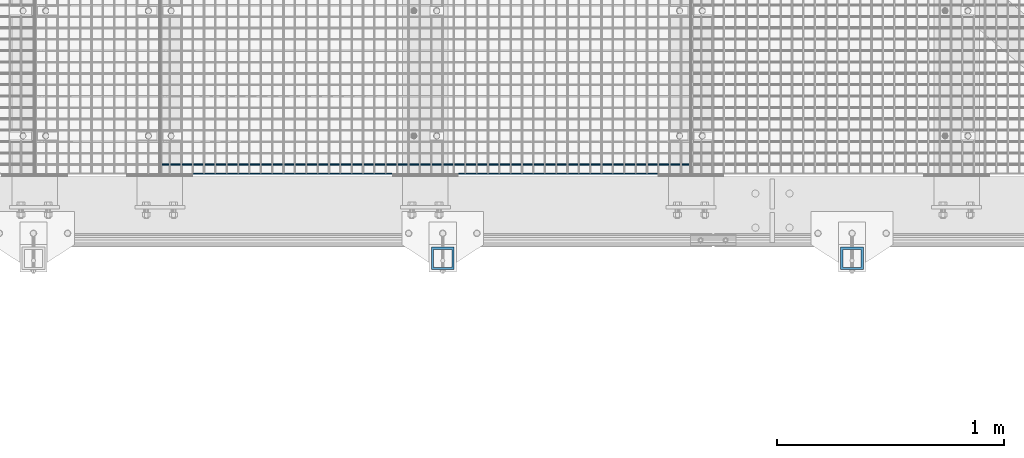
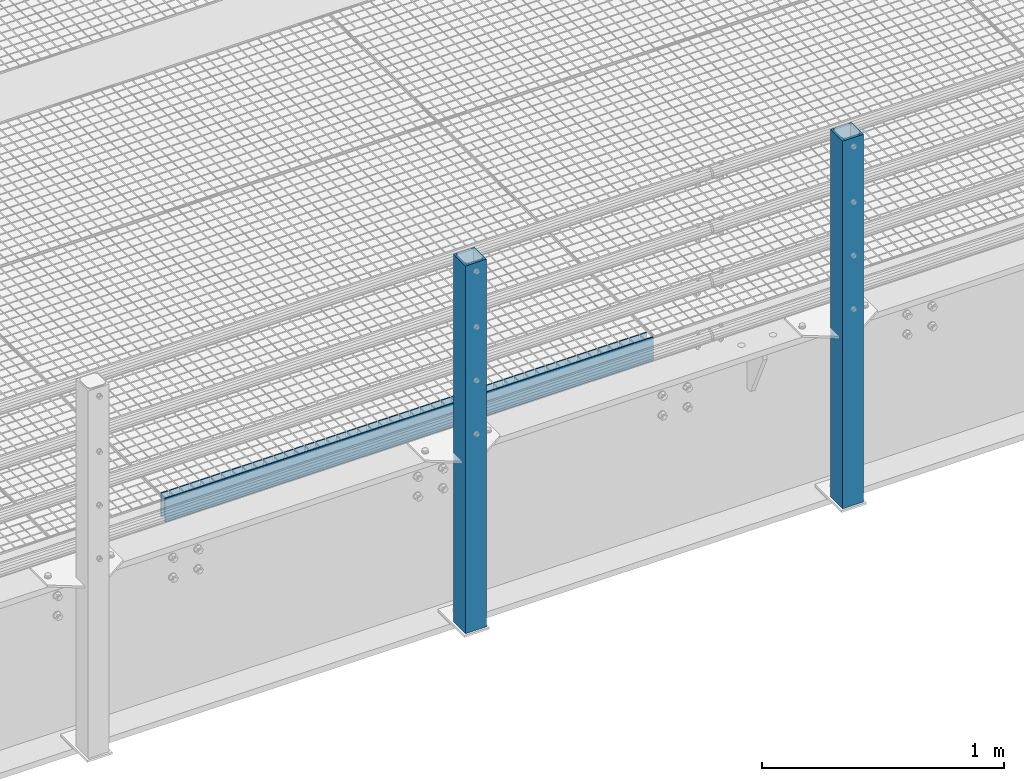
# One storey, part 170 of 1530: 4 beams.
"""IFC2X3 building model written with IfcOpenShell, lengths in millimetres."""

from ifc_helpers import new_model, si_unit, frame, origin_with_axes, place, context, subcontext, project, spatial, faceted_brep, material, type_object, element, save


model = new_model("IFC2X3")

# Units and contexts
model_context = context("Model", 3, precision=1e-05, world=origin_with_axes())
body_context = subcontext(model_context, "Body", "Model", "MODEL_VIEW")
ifc_project = project(units=[si_unit("LENGTHUNIT", "METRE", prefix="MILLI"), si_unit("AREAUNIT", "SQUARE_METRE"), si_unit("VOLUMEUNIT", "CUBIC_METRE"), si_unit("MASSUNIT", "GRAM", prefix="KILO"), si_unit("TIMEUNIT", "SECOND"), si_unit("PLANEANGLEUNIT", "RADIAN"), si_unit("SOLIDANGLEUNIT", "STERADIAN"), si_unit("THERMODYNAMICTEMPERATUREUNIT", "DEGREE_CELSIUS"), si_unit("LUMINOUSINTENSITYUNIT", "LUMEN")], contexts=[model_context])

# Site, building, storey
site_placement = place(None, origin_with_axes())
site = spatial("IfcSite", under=ifc_project, at=site_placement, Name="Brattvåg", CompositionType="ELEMENT")
building_placement = place(site_placement, origin_with_axes())
building = spatial("IfcBuilding", under=site, at=building_placement, Name="Undefined", CompositionType="ELEMENT")
storey_placement = place(building_placement, origin_with_axes())
storey = spatial("IfcBuildingStorey", under=building, at=storey_placement, Name="Undefined", CompositionType="ELEMENT", Elevation=0.0)

# Beams
ifc_material_1 = material(Name="STEEL/S355J2")
beam_type_1 = type_object("IfcBeamType", Name="120*5", PredefinedType="NOTDEFINED")
beam_1_placement = place(storey_placement, frame((5234.01317977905, 202.994873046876, -59.9998626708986), z_axis=(0.0, 0.0, 1.0), x_axis=(-1.0, 1.99999855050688e-09, 0.0)))
element("IfcBeam", 1, at=beam_1_placement, inside=storey, type_object=beam_type_1, material=ifc_material_1, Name="GRATING", context=body_context, shape_type="Brep", body=[
    faceted_brep([(2231.43418685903, -2.50000000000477, 60.000072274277), (2231.43418685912, -2.50000000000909, 35.0001373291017), (2231.43418685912, 2.50022888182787, 35.0001373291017), (2231.43418685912, 2.5, 60.0), (2236.43418685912, -2.50000000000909, 35.0001373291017), (2236.43418685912, 2.50022888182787, 35.0001373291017), (2236.43418685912, -2.50000000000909, 60.0001373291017), (2236.43418685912, 2.5, 60.0), (2186.48418685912, -2.50000000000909, 60.0001373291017), (2186.48418685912, 2.5, 60.0), (2186.48418685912, 2.50022888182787, 35.0001373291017), (2186.48418685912, -2.50000000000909, 35.0001373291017), (2181.48418685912, 2.50022888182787, 35.0001373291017), (2181.48418685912, -2.50000000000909, 35.0001373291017), (2181.48418685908, -2.50000000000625, 60.0000947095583), (2181.48418685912, 2.5, 60.0), (2136.53418685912, 2.5, 60.0), (2136.53418685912, -2.50000000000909, 60.0001373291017), (2136.53418685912, 2.50022888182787, 35.0001373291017), (2136.53418685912, -2.50000000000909, 35.0001373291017), (2131.53418685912, 2.50022888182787, 35.0001373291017), (2131.53418685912, -2.50000000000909, 35.0001373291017), (2131.5341868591, -2.50000000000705, 60.0001056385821), (2131.53418685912, 2.5, 60.0), (2086.58418685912, 2.5, 60.0), (2086.58418685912, -2.50000000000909, 60.0001373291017), (2086.58418685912, 2.50022888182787, 35.0001373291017), (2086.58418685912, -2.50000000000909, 35.0001373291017), (2081.58418685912, 2.50022888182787, 35.0001373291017), (2081.58418685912, -2.50000000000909, 35.0001373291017), (2081.58418685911, -2.50000000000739, 60.0001121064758), (2081.58418685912, 2.5, 60.0), (2036.63418685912, 2.5, 60.0), (2036.63418685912, -2.50000000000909, 60.0001373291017), (2036.63418685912, 2.50022888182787, 35.0001373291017), (2036.63418685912, -2.50000000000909, 35.0001373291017), (2031.63418685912, 2.50022888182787, 35.0001373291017), (2031.63418685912, -2.50000000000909, 35.0001373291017), (2031.63418685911, -2.50000000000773, 60.0001163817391), (2031.63418685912, 2.5, 60.0), (1986.68418685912, 2.5, 60.0), (1986.68418685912, -2.50000000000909, 60.0001373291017), (1986.68418685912, 2.50022888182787, 35.0001373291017), (1986.68418685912, -2.50000000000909, 35.0001373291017), (1981.68418685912, 2.50022888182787, 35.0001373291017), (1981.68418685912, -2.50000000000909, 35.0001373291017), (1981.68418685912, -2.50000000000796, 60.0001194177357), (1981.68418685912, 2.5, 60.0), (1936.73418685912, 2.5, 60.0), (1936.73418685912, -2.50000000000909, 60.0001373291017), (1936.73418685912, 2.50022888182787, 35.0001373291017), (1936.73418685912, -2.50000000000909, 35.0001373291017), (1931.73418685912, 2.50022888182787, 35.0001373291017), (1931.73418685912, -2.50000000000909, 35.0001373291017), (1931.73418685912, -2.50000000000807, 60.000121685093), (1931.73418685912, 2.5, 60.0), (1886.78418685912, 2.5, 60.0), (1886.78418685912, -2.50000000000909, 60.0001373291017), (1886.78418685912, 2.50022888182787, 35.0001373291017), (1886.78418685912, -2.50000000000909, 35.0001373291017), (1881.78418685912, 2.50022888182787, 35.0001373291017), (1881.78418685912, -2.50000000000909, 35.0001373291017), (1881.78418685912, -2.50000000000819, 60.0001234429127), (1881.78418685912, 2.5, 60.0), (1836.83418685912, 2.5, 60.0), (1836.83418685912, -2.50000000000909, 60.0001373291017), (1836.83418685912, 2.50022888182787, 35.0001373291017), (1836.83418685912, -2.50000000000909, 35.0001373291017), (1831.83418685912, 2.50022888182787, 35.0001373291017), (1831.83418685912, -2.50000000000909, 35.0001373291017), (1831.83418685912, -2.5000000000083, 60.0001248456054), (1831.83418685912, 2.5, 60.0), (1786.88418685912, 2.5, 60.0), (1786.88418685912, -2.50000000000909, 60.0001373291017), (1786.88418685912, 2.50022888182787, 35.0001373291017), (1786.88418685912, -2.50000000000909, 35.0001373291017), (1781.88418685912, 2.50022888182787, 35.0001373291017), (1781.88418685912, -2.50000000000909, 35.0001373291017), (1781.88418685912, -2.5000000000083, 60.0001259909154), (1781.88418685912, 2.5, 60.0), (1736.93418685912, 2.5, 60.0), (1736.93418685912, -2.50000000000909, 60.0001373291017), (1736.93418685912, 2.50022888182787, 35.0001373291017), (1736.93418685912, -2.50000000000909, 35.0001373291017), (1731.93418685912, 2.50022888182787, 35.0001373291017), (1731.93418685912, -2.50000000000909, 35.0001373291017), (1731.93418685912, -2.50000000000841, 60.0001269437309), (1731.93418685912, 2.5, 60.0), (1686.98418685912, 2.5, 60.0), (1686.98418685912, -2.50000000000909, 60.0001373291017), (1686.98418685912, 2.50022888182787, 35.0001373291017), (1686.98418685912, -2.50000000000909, 35.0001373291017), (1681.98418685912, 2.50022888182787, 35.0001373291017), (1681.98418685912, -2.50000000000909, 35.0001373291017), (1681.98418685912, -2.50000000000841, 60.0001277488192), (1681.98418685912, 2.5, 60.0), (1637.03418685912, 2.5, 60.0), (1637.03418685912, -2.50000000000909, 60.0001373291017), (1637.03418685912, 2.50022888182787, 35.0001373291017), (1637.03418685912, -2.50000000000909, 35.0001373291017), (1632.03418685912, 2.50022888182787, 35.0001373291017), (1632.03418685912, -2.50000000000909, 35.0001373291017), (1632.03418685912, -2.50000000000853, 60.0001284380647), (1632.03418685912, 2.5, 60.0), (1587.08418685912, 2.5, 60.0), (1587.08418685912, -2.50000000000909, 60.0001373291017), (1587.08418685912, 2.50022888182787, 35.0001373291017), (1587.08418685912, -2.50000000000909, 35.0001373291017), (1582.08418685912, 2.50022888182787, 35.0001373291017), (1582.08418685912, -2.50000000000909, 35.0001373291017), (1582.08418685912, -2.50000000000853, 60.000129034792), (1582.08418685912, 2.5, 60.0), (1537.13418685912, 2.5, 60.0), (1537.13418685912, -2.50000000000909, 60.0001373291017), (1537.13418685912, 2.50022888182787, 35.0001373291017), (1537.13418685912, -2.50000000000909, 35.0001373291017), (1532.13418685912, 2.50022888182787, 35.0001373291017), (1532.13418685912, -2.50000000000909, 35.0001373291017), (1532.13418685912, -2.50000000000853, 60.0001295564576), (1532.13418685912, 2.5, 60.0), (1487.18418685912, 2.5, 60.0), (1487.18418685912, -2.50000000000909, 60.0001373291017), (1487.18418685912, 2.50022888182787, 35.0001373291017), (1487.18418685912, -2.50000000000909, 35.0001373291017), (1482.18418685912, 2.50022888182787, 35.0001373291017), (1482.18418685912, -2.50000000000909, 35.0001373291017), (1482.18418685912, -2.50000000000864, 60.0001300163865), (1482.18418685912, 2.5, 60.0), (1437.23418685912, 2.5, 60.0), (1437.23418685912, -2.50000000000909, 60.0001373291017), (1437.23418685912, 2.50022888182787, 35.0001373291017), (1437.23418685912, -2.50000000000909, 35.0001373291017), (1432.23418685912, 2.50022888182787, 35.0001373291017), (1432.23418685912, -2.50000000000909, 35.0001373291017), (1432.23418685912, -2.50000000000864, 60.0001304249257), (1432.23418685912, 2.5, 60.0), (1387.28418685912, 2.5, 60.0), (1387.28418685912, -2.50000000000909, 60.0001373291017), (1387.28418685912, 2.50022888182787, 35.0001373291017), (1387.28418685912, -2.50000000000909, 35.0001373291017), (1382.28418685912, 2.50022888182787, 35.0001373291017), (1382.28418685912, -2.50000000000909, 35.0001373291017), (1382.28418685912, -2.50000000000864, 60.0001307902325), (1382.28418685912, 2.5, 60.0), (1337.33418685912, 2.5, 60.0), (1337.33418685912, -2.50000000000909, 60.0001373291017), (1337.33418685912, 2.50022888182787, 35.0001373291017), (1337.33418685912, -2.50000000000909, 35.0001373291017), (1332.33418685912, 2.50022888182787, 35.0001373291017), (1332.33418685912, -2.50000000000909, 35.0001373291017), (1332.33418685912, -2.50000000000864, 60.0001311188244), (1332.33418685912, 2.5, 60.0), (1287.38418685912, 2.5, 60.0), (1287.38418685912, -2.50000000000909, 60.0001373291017), (1287.38418685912, 2.50022888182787, 35.0001373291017), (1287.38418685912, -2.50000000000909, 35.0001373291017), (1282.38418685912, 2.50022888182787, 35.0001373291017), (1282.38418685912, -2.50000000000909, 35.0001373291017), (1282.38418685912, -2.50000000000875, 60.0001314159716), (1282.38418685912, 2.5, 60.0), (1237.43418685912, 2.5, 60.0), (1237.43418685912, -2.50000000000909, 60.0001373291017), (1237.43418685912, 2.50022888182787, 35.0001373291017), (1237.43418685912, -2.50000000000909, 35.0001373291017), (1232.43418685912, 2.50022888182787, 35.0001373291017), (1232.43418685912, -2.50000000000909, 35.0001373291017), (1232.43418685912, -2.50000000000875, 60.0001316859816), (1232.43418685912, 2.5, 60.0), (1187.48418685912, 2.5, 60.0), (1187.48418685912, -2.50000000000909, 60.0001373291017), (1187.48418685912, 2.50022888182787, 35.0001373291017), (1187.48418685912, -2.50000000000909, 35.0001373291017), (1182.48418685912, 2.50022888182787, 35.0001373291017), (1182.48418685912, -2.50000000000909, 35.0001373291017), (1182.48418685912, -2.50000000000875, 60.0001319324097), (1182.48418685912, 2.5, 60.0), (1137.53418685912, 2.5, 60.0), (1137.53418685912, -2.50000000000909, 60.0001373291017), (1137.53418685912, 2.50022888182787, 35.0001373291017), (1137.53418685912, -2.50000000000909, 35.0001373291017), (1132.53418685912, 2.50022888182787, 35.0001373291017), (1132.53418685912, -2.50000000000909, 35.0001373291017), (1132.53418685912, -2.50000000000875, 60.0001321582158), (1132.53418685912, 2.5, 60.0), (1087.58418685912, 2.5, 60.0), (1087.58418685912, -2.50000000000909, 60.0001373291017), (1087.58418685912, 2.50022888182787, 35.0001373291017), (1087.58418685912, -2.50000000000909, 35.0001373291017), (1082.58418685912, 2.50022888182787, 35.0001373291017), (1082.58418685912, -2.50000000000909, 35.0001373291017), (1082.58418685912, -2.50000000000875, 60.0001323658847), (1082.58418685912, 2.5, 60.0), (1037.63418685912, 2.5, 60.0), (1037.63418685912, -2.50000000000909, 60.0001373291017), (1037.63418685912, 2.50022888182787, 35.0001373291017), (1037.63418685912, -2.50000000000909, 35.0001373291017), (1032.63418685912, 2.50022888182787, 35.0001373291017), (1032.63418685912, -2.50000000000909, 35.0001373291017), (1032.63418685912, -2.50000000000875, 60.0001325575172), (1032.63418685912, 2.5, 60.0), (987.684186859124, 2.5, 60.0), (987.684186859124, -2.50000000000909, 60.0001373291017), (987.684186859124, 2.50022888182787, 35.0001373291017), (987.684186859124, -2.50000000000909, 35.0001373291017), (982.684186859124, 2.50022888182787, 35.0001373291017), (982.684186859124, -2.50000000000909, 35.0001373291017), (982.684186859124, -2.50000000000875, 60.0001327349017), (982.684186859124, 2.5, 60.0), (937.734186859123, 2.5, 60.0), (937.734186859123, -2.50000000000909, 60.0001373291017), (937.734186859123, 2.50022888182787, 35.0001373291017), (937.734186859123, -2.50000000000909, 35.0001373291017), (932.734186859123, 2.50022888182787, 35.0001373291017), (932.734186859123, -2.50000000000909, 35.0001373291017), (932.734186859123, -2.50000000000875, 60.0001328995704), (932.734186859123, 2.5, 60.0), (887.784186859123, 2.5, 60.0), (887.784186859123, -2.50000000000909, 60.0001373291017), (887.784186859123, 2.50022888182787, 35.0001373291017), (887.784186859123, -2.50000000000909, 35.0001373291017), (882.784186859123, 2.50022888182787, 35.0001373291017), (882.784186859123, -2.50000000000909, 35.0001373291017), (882.784186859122, -2.50000000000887, 60.0001330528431), (882.784186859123, 2.5, 60.0), (837.834186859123, 2.5, 60.0), (837.834186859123, -2.50000000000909, 60.0001373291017), (837.834186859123, 2.50022888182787, 35.0001373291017), (837.834186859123, -2.50000000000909, 35.0001373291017), (832.834186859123, 2.50022888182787, 35.0001373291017), (832.834186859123, -2.50000000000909, 35.0001373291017), (832.834186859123, -2.50000000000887, 60.0001331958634), (832.834186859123, 2.5, 60.0), (787.884186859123, 2.5, 60.0), (787.884186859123, -2.50000000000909, 60.0001373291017), (787.884186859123, 2.50022888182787, 35.0001373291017), (787.884186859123, -2.50000000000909, 35.0001373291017), (782.884186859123, 2.50022888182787, 35.0001373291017), (782.884186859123, -2.50000000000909, 35.0001373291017), (782.884186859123, -2.50000000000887, 60.0001333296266), (782.884186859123, 2.5, 60.0), (737.934186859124, 2.5, 60.0), (737.934186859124, -2.50000000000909, 60.0001373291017), (737.934186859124, 2.50022888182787, 35.0001373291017), (737.934186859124, -2.50000000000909, 35.0001373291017), (732.934186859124, 2.50022888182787, 35.0001373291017), (732.934186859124, -2.50000000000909, 35.0001373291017), (732.934186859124, -2.50000000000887, 60.0001334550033), (732.934186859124, 2.5, 60.0), (687.984186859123, 2.5, 60.0), (687.984186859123, -2.50000000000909, 60.0001373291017), (687.984186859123, 2.50022888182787, 35.0001373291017), (687.984186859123, -2.50000000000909, 35.0001373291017), (682.984186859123, 2.50022888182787, 35.0001373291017), (682.984186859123, -2.50000000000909, 35.0001373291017), (682.984186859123, -2.50000000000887, 60.0001335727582), (682.984186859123, 2.5, 60.0), (638.034186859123, 2.5, 60.0), (638.034186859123, -2.50000000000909, 60.0001373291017), (638.034186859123, 2.50022888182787, 35.0001373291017), (638.034186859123, -2.50000000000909, 35.0001373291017), (633.034186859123, 2.50022888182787, 35.0001373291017), (633.034186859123, -2.50000000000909, 35.0001373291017), (633.034186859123, -2.50000000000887, 60.0001336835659), (633.034186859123, 2.5, 60.0), (588.084186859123, 2.5, 60.0), (588.084186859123, -2.50000000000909, 60.0001373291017), (588.084186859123, 2.50022888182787, 35.0001373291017), (588.084186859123, -2.50000000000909, 35.0001373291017), (583.084186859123, 2.50022888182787, 35.0001373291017), (583.084186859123, -2.50000000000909, 35.0001373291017), (583.084186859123, -2.50000000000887, 60.0001337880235), (583.084186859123, 2.5, 60.0), (538.134186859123, 2.5, 60.0), (538.134186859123, -2.50000000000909, 60.0001373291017), (538.134186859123, 2.50022888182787, 35.0001373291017), (538.134186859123, -2.50000000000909, 35.0001373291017), (533.134186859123, 2.50022888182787, 35.0001373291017), (533.134186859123, -2.50000000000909, 35.0001373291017), (533.134186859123, -2.50000000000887, 60.0001338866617), (533.134186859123, 2.5, 60.0), (488.184186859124, 2.5, 60.0), (488.184186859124, -2.50000000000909, 60.0001373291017), (488.184186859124, 2.50022888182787, 35.0001373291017), (488.184186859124, -2.50000000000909, 35.0001373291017), (483.184186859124, 2.50022888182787, 35.0001373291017), (483.184186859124, -2.50000000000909, 35.0001373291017), (483.184186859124, -2.50000000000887, 60.0001339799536), (483.184186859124, 2.5, 60.0), (438.234186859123, 2.5, 60.0), (438.234186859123, -2.50000000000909, 60.0001373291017), (438.234186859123, 2.50022888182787, 35.0001373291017), (438.234186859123, -2.50000000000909, 35.0001373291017), (433.234186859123, 2.50022888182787, 35.0001373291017), (433.234186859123, -2.50000000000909, 35.0001373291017), (433.234186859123, -2.50000000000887, 60.0001340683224), (433.234186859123, 2.5, 60.0), (388.284186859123, 2.5, 60.0), (388.284186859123, -2.50000000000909, 60.0001373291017), (388.284186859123, 2.50022888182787, 35.0001373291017), (388.284186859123, -2.50000000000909, 35.0001373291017), (383.284186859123, 2.50022888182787, 35.0001373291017), (383.284186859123, -2.50000000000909, 35.0001373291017), (383.284186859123, -2.50000000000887, 60.0001341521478), (383.284186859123, 2.5, 60.0), (338.334186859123, 2.5, 60.0), (338.334186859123, -2.50000000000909, 60.0001373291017), (338.334186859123, 2.50022888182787, 35.0001373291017), (338.334186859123, -2.50000000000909, 35.0001373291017), (333.334186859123, 2.50022888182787, 35.0001373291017), (333.334186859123, -2.50000000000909, 35.0001373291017), (333.334186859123, -2.50000000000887, 60.0001342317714), (333.334186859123, 2.5, 60.0), (288.384186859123, 2.5, 60.0), (288.384186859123, -2.50000000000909, 60.0001373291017), (288.384186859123, 2.50022888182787, 35.0001373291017), (288.384186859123, -2.50000000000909, 35.0001373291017), (283.384186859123, 2.50022888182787, 35.0001373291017), (283.384186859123, -2.50000000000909, 35.0001373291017), (283.384186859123, -2.50000000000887, 60.0001343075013), (283.384186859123, 2.5, 60.0), (238.434186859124, 2.5, 60.0), (238.434186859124, -2.50000000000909, 60.0001373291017), (238.434186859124, 2.50022888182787, 35.0001373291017), (238.434186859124, -2.50000000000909, 35.0001373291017), (233.434186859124, 2.50022888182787, 35.0001373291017), (233.434186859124, -2.50000000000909, 35.0001373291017), (233.434186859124, -2.50000000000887, 60.0001343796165), (233.434186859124, 2.5, 60.0), (188.484186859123, 2.5, 60.0), (188.484186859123, -2.50000000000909, 60.0001373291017), (188.484186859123, 2.50022888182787, 35.0001373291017), (188.484186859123, -2.50000000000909, 35.0001373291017), (183.484186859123, 2.50022888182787, 35.0001373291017), (183.484186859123, -2.50000000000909, 35.0001373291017), (183.484186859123, -2.50000000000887, 60.0001344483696), (183.484186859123, 2.5, 60.0), (138.534186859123, 2.5, 60.0), (138.534186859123, -2.50000000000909, 60.0001373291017), (138.534186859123, 2.50022888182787, 35.0001373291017), (138.534186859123, -2.50000000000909, 35.0001373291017), (133.534186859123, 2.50022888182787, 35.0001373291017), (133.534186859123, -2.50000000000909, 35.0001373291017), (133.534186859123, -2.50000000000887, 60.0001345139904), (133.534186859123, 2.5, 60.0), (88.5841868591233, 2.5, 60.0), (88.5841868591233, -2.50000000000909, 60.0001373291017), (88.5841868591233, 2.50022888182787, 35.0001373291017), (88.5841868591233, -2.50000000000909, 35.0001373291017), (83.5841868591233, 2.50022888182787, 35.0001373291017), (83.5841868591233, -2.50000000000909, 35.0001373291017), (83.5841868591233, -2.50000000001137, 60.0001345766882), (83.5841868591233, 2.5, 60.0), (38.6341868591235, 2.5, 60.0), (38.6341868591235, -2.5000000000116, 60.0001373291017), (38.6341868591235, 2.49999999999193, 35.0001373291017), (38.6341868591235, -2.5000000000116, 35.0001373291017), (33.6341868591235, 2.49999999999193, 35.0001373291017), (33.6341868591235, -2.5000000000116, 35.0001373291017), (33.6341868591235, -2.5, 60.0), (33.6341868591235, 2.5, 60.0), (0.0, 2.5, 60.0), (0.0, -2.5, 60.0), (0.0, -2.5, -60.0), (0.0, 2.5, -60.0), (2319.99865722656, 2.5, -60.0), (2319.99865722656, -2.5, -60.0), (2319.99865722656, -2.5, 60.0), (2319.99865722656, 2.5, 60.0), (2286.37250839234, 2.5, 60.0), (2286.37250839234, -2.50000000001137, 60.0001373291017), (2286.37250839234, 2.49999999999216, 35.0001373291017), (2286.37250839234, -2.50000000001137, 35.0001373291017), (2281.37250839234, 2.49999999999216, 35.0001373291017), (2281.37250839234, -2.50000000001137, 35.0001373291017), (2281.37250839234, -2.5, 60.0), (2281.37250839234, 2.5, 60.0)], [[[0, 1, 2, 3]], [[4, 5, 2, 1]], [[6, 7, 5, 4]], [[8, 9, 10, 11]], [[11, 10, 12, 13]], [[14, 13, 12, 15]], [[16, 17, 14, 15]], [[17, 16, 18, 19]], [[19, 18, 20, 21]], [[22, 21, 20, 23]], [[24, 25, 22, 23]], [[25, 24, 26, 27]], [[27, 26, 28, 29]], [[30, 29, 28, 31]], [[32, 33, 30, 31]], [[33, 32, 34, 35]], [[35, 34, 36, 37]], [[38, 37, 36, 39]], [[40, 41, 38, 39]], [[41, 40, 42, 43]], [[43, 42, 44, 45]], [[46, 45, 44, 47]], [[48, 49, 46, 47]], [[49, 48, 50, 51]], [[51, 50, 52, 53]], [[54, 53, 52, 55]], [[56, 57, 54, 55]], [[57, 56, 58, 59]], [[59, 58, 60, 61]], [[62, 61, 60, 63]], [[64, 65, 62, 63]], [[65, 64, 66, 67]], [[67, 66, 68, 69]], [[70, 69, 68, 71]], [[72, 73, 70, 71]], [[73, 72, 74, 75]], [[75, 74, 76, 77]], [[78, 77, 76, 79]], [[80, 81, 78, 79]], [[81, 80, 82, 83]], [[83, 82, 84, 85]], [[86, 85, 84, 87]], [[88, 89, 86, 87]], [[89, 88, 90, 91]], [[91, 90, 92, 93]], [[94, 93, 92, 95]], [[96, 97, 94, 95]], [[97, 96, 98, 99]], [[99, 98, 100, 101]], [[102, 101, 100, 103]], [[104, 105, 102, 103]], [[105, 104, 106, 107]], [[107, 106, 108, 109]], [[110, 109, 108, 111]], [[112, 113, 110, 111]], [[113, 112, 114, 115]], [[115, 114, 116, 117]], [[118, 117, 116, 119]], [[120, 121, 118, 119]], [[121, 120, 122, 123]], [[123, 122, 124, 125]], [[126, 125, 124, 127]], [[128, 129, 126, 127]], [[129, 128, 130, 131]], [[131, 130, 132, 133]], [[134, 133, 132, 135]], [[136, 137, 134, 135]], [[137, 136, 138, 139]], [[139, 138, 140, 141]], [[142, 141, 140, 143]], [[144, 145, 142, 143]], [[145, 144, 146, 147]], [[147, 146, 148, 149]], [[150, 149, 148, 151]], [[152, 153, 150, 151]], [[153, 152, 154, 155]], [[155, 154, 156, 157]], [[158, 157, 156, 159]], [[160, 161, 158, 159]], [[161, 160, 162, 163]], [[163, 162, 164, 165]], [[166, 165, 164, 167]], [[168, 169, 166, 167]], [[169, 168, 170, 171]], [[171, 170, 172, 173]], [[174, 173, 172, 175]], [[176, 177, 174, 175]], [[177, 176, 178, 179]], [[179, 178, 180, 181]], [[182, 181, 180, 183]], [[184, 185, 182, 183]], [[185, 184, 186, 187]], [[187, 186, 188, 189]], [[190, 189, 188, 191]], [[192, 193, 190, 191]], [[193, 192, 194, 195]], [[195, 194, 196, 197]], [[198, 197, 196, 199]], [[200, 201, 198, 199]], [[201, 200, 202, 203]], [[203, 202, 204, 205]], [[206, 205, 204, 207]], [[208, 209, 206, 207]], [[209, 208, 210, 211]], [[211, 210, 212, 213]], [[214, 213, 212, 215]], [[216, 217, 214, 215]], [[217, 216, 218, 219]], [[219, 218, 220, 221]], [[222, 221, 220, 223]], [[224, 225, 222, 223]], [[225, 224, 226, 227]], [[227, 226, 228, 229]], [[230, 229, 228, 231]], [[232, 233, 230, 231]], [[233, 232, 234, 235]], [[235, 234, 236, 237]], [[238, 237, 236, 239]], [[240, 241, 238, 239]], [[241, 240, 242, 243]], [[243, 242, 244, 245]], [[246, 245, 244, 247]], [[248, 249, 246, 247]], [[249, 248, 250, 251]], [[251, 250, 252, 253]], [[254, 253, 252, 255]], [[256, 257, 254, 255]], [[257, 256, 258, 259]], [[259, 258, 260, 261]], [[262, 261, 260, 263]], [[264, 265, 262, 263]], [[265, 264, 266, 267]], [[267, 266, 268, 269]], [[270, 269, 268, 271]], [[272, 273, 270, 271]], [[273, 272, 274, 275]], [[275, 274, 276, 277]], [[278, 277, 276, 279]], [[280, 281, 278, 279]], [[281, 280, 282, 283]], [[283, 282, 284, 285]], [[286, 285, 284, 287]], [[288, 289, 286, 287]], [[289, 288, 290, 291]], [[291, 290, 292, 293]], [[294, 293, 292, 295]], [[296, 297, 294, 295]], [[297, 296, 298, 299]], [[299, 298, 300, 301]], [[302, 301, 300, 303]], [[304, 305, 302, 303]], [[305, 304, 306, 307]], [[307, 306, 308, 309]], [[310, 309, 308, 311]], [[312, 313, 310, 311]], [[313, 312, 314, 315]], [[315, 314, 316, 317]], [[318, 317, 316, 319]], [[320, 321, 318, 319]], [[321, 320, 322, 323]], [[323, 322, 324, 325]], [[326, 325, 324, 327]], [[328, 329, 326, 327]], [[329, 328, 330, 331]], [[331, 330, 332, 333]], [[334, 333, 332, 335]], [[336, 337, 334, 335]], [[337, 336, 338, 339]], [[339, 338, 340, 341]], [[342, 341, 340, 343]], [[344, 345, 342, 343]], [[345, 344, 346, 347]], [[347, 346, 348, 349]], [[350, 349, 348, 351]], [[352, 353, 350, 351]], [[353, 352, 354, 355]], [[355, 354, 356, 357]], [[358, 357, 356, 359]], [[360, 361, 358, 359]], [[362, 361, 360, 363]], [[362, 363, 364, 365]], [[366, 365, 364, 367]], [[366, 367, 368, 369]], [[369, 368, 370, 371]], [[371, 370, 372, 373]], [[374, 373, 372, 375]], [[1, 0, 8, 11, 13, 14, 17, 19, 21, 22, 25, 27, 29, 30, 33, 35, 37, 38, 41, 43, 45, 46, 49, 51, 53, 54, 57, 59, 61, 62, 65, 67, 69, 70, 73, 75, 77, 78, 81, 83, 85, 86, 89, 91, 93, 94, 97, 99, 101, 102, 105, 107, 109, 110, 113, 115, 117, 118, 121, 123, 125, 126, 129, 131, 133, 134, 137, 139, 141, 142, 145, 147, 149, 150, 153, 155, 157, 158, 161, 163, 165, 166, 169, 171, 173, 174, 177, 179, 181, 182, 185, 187, 189, 190, 193, 195, 197, 198, 201, 203, 205, 206, 209, 211, 213, 214, 217, 219, 221, 222, 225, 227, 229, 230, 233, 235, 237, 238, 241, 243, 245, 246, 249, 251, 253, 254, 257, 259, 261, 262, 265, 267, 269, 270, 273, 275, 277, 278, 281, 283, 285, 286, 289, 291, 293, 294, 297, 299, 301, 302, 305, 307, 309, 310, 313, 315, 317, 318, 321, 323, 325, 326, 329, 331, 333, 334, 337, 339, 341, 342, 345, 347, 349, 350, 353, 355, 357, 358, 361, 362, 365, 366, 369, 371, 373, 374, 6, 4]], [[9, 8, 0, 3]], [[375, 372, 370, 368, 367, 364, 363, 360, 359, 356, 354, 352, 351, 348, 346, 344, 343, 340, 338, 336, 335, 332, 330, 328, 327, 324, 322, 320, 319, 316, 314, 312, 311, 308, 306, 304, 303, 300, 298, 296, 295, 292, 290, 288, 287, 284, 282, 280, 279, 276, 274, 272, 271, 268, 266, 264, 263, 260, 258, 256, 255, 252, 250, 248, 247, 244, 242, 240, 239, 236, 234, 232, 231, 228, 226, 224, 223, 220, 218, 216, 215, 212, 210, 208, 207, 204, 202, 200, 199, 196, 194, 192, 191, 188, 186, 184, 183, 180, 178, 176, 175, 172, 170, 168, 167, 164, 162, 160, 159, 156, 154, 152, 151, 148, 146, 144, 143, 140, 138, 136, 135, 132, 130, 128, 127, 124, 122, 120, 119, 116, 114, 112, 111, 108, 106, 104, 103, 100, 98, 96, 95, 92, 90, 88, 87, 84, 82, 80, 79, 76, 74, 72, 71, 68, 66, 64, 63, 60, 58, 56, 55, 52, 50, 48, 47, 44, 42, 40, 39, 36, 34, 32, 31, 28, 26, 24, 23, 20, 18, 16, 15, 12, 10, 9, 3, 2, 5, 7]], [[374, 375, 7, 6]]]),
])
beam_2_placement = place(storey_placement, frame((2909.01067138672, 161.498687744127, -59.9998626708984), z_axis=(0.0, 0.0, 1.0), x_axis=(1.0, 0.0, 0.0)))
element("IfcBeam", 2, at=beam_2_placement, inside=storey, type_object=beam_type_1, material=ifc_material_1, Name="GRATING", context=body_context, shape_type="Brep", body=[
    faceted_brep([(0.0, 2.5, -60.0), (0.0, 2.5, 60.0), (2329.99832153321, 2.5, 60.0), (2329.99832153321, 2.5, -60.0), (0.0, -2.5, 60.0), (2329.99832153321, -2.5, 60.0), (0.0, -2.5, -60.0), (2329.99832153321, -2.5, -60.0)], [[[0, 1, 2, 3]], [[1, 4, 5, 2]], [[4, 6, 7, 5]], [[6, 0, 3, 7]], [[5, 7, 3, 2]], [[6, 4, 1, 0]]]),
])
ifc_material_2 = material(Name="STEEL/S355J2H")
beam_type_2 = type_object("IfcBeamType", Name="RHS100*10", PredefinedType="NOTDEFINED")
for number, where, z_axis, x_axis in (
    (3, (4150.00016021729, -209.999721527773, -844.999801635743), (-1.0, 1.99999855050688e-09, 0.0), (0.0, 0.0, 1.0)),
    (4, (5950.00016021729, -209.999721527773, -844.999801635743), (-1.0, 1.99999855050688e-09, 0.0), (0.0, 0.0, 1.0)),
):
    element("IfcBeam", number, at=place(storey_placement, frame(where, z_axis=z_axis, x_axis=x_axis)), inside=storey, type_object=beam_type_2, material=ifc_material_2, Name="STÅLBJELKE", context=body_context, shape_type="Brep", body=[
        faceted_brep([(0.0, 40.0, -40.0), (0.0, -40.0, -40.0), (1855.00001907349, -40.0, -40.0), (1855.00001907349, 40.0, -40.0), (0.0, -40.0, 40.0), (1855.00001907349, -40.0, 40.0), (0.0, 40.0, 40.0), (1855.00001907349, 40.0, 40.0), (0.0, 50.0, -50.0), (0.0, 50.0, 50.0), (1855.00001907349, 50.0, 50.0), (1855.00001907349, 50.0, -50.0), (0.0, -50.0, 50.0), (1855.00001907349, -50.0, 50.0), (0.0, -50.0, -50.0), (1855.00001907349, -50.0, -50.0)], [[[0, 1, 2, 3]], [[1, 4, 5, 2]], [[4, 6, 7, 5]], [[6, 0, 3, 7]], [[8, 9, 10, 11]], [[9, 12, 13, 10]], [[12, 14, 15, 13]], [[14, 8, 11, 15]], [[13, 15, 11, 10], [5, 7, 3, 2]], [[14, 12, 9, 8], [6, 4, 1, 0]]]),
    ])

save(model, "model.ifc")
